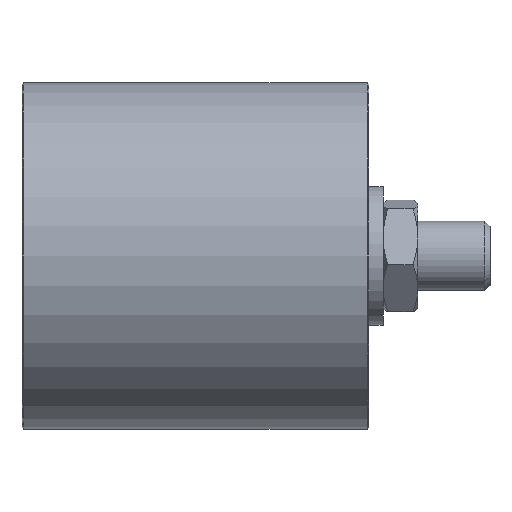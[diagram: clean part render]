
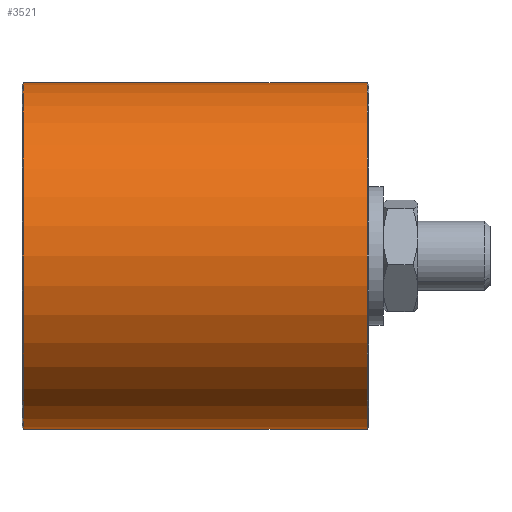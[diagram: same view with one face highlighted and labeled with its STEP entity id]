
A CAD part, front view. The second image highlights one B-rep face of the part: STEP entity #3521.
In plain terms, the highlighted cylindrical face has radius 30 mm (diameter 60 mm), a partial arc.
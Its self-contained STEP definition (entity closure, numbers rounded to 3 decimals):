
#24 = VERTEX_POINT ( 'NONE', #2081 ) ;
#61 = VERTEX_POINT ( 'NONE', #2099 ) ;
#88 = ORIENTED_EDGE ( 'NONE', *, *, #3079, .T. ) ;
#115 = CARTESIAN_POINT ( 'NONE',  ( 0., 29.75, 0. ) ) ;
#181 = DIRECTION ( 'NONE',  ( 0., -1., 0. ) ) ;
#216 = CARTESIAN_POINT ( 'NONE',  ( 0., 30., -30. ) ) ;
#223 = VERTEX_POINT ( 'NONE', #960 ) ;
#227 = ORIENTED_EDGE ( 'NONE', *, *, #3271, .T. ) ;
#448 = DIRECTION ( 'NONE',  ( 0., 0., 1. ) ) ;
#568 = DIRECTION ( 'NONE',  ( 0., -1., 0. ) ) ;
#609 = DIRECTION ( 'NONE',  ( 0., 0., -1. ) ) ;
#616 = ORIENTED_EDGE ( 'NONE', *, *, #3128, .T. ) ;
#687 = VERTEX_POINT ( 'NONE', #1725 ) ;
#811 = ORIENTED_EDGE ( 'NONE', *, *, #3719, .F. ) ;
#960 = CARTESIAN_POINT ( 'NONE',  ( 0., 29.75, -30. ) ) ;
#1365 = DIRECTION ( 'NONE',  ( 0., 0., 1. ) ) ;
#1378 = DIRECTION ( 'NONE',  ( 0., -1., 0. ) ) ;
#1647 = AXIS2_PLACEMENT_3D ( 'NONE', #115, #3850, #448 ) ;
#1725 = CARTESIAN_POINT ( 'NONE',  ( 0., -29.75, -30. ) ) ;
#1912 = LINE ( 'NONE', #2696, #3666 ) ;
#2081 = CARTESIAN_POINT ( 'NONE',  ( 0., 29.75, 30. ) ) ;
#2099 = CARTESIAN_POINT ( 'NONE',  ( 0., -29.75, 30. ) ) ;
#2292 = EDGE_LOOP ( 'NONE', ( #227, #616, #88, #811 ) ) ;
#2338 = LINE ( 'NONE', #216, #2552 ) ;
#2552 = VECTOR ( 'NONE', #181, 1000. ) ;
#2652 = CYLINDRICAL_SURFACE ( 'NONE', #3970, 30. ) ;
#2696 = CARTESIAN_POINT ( 'NONE',  ( 0., 30., 30. ) ) ;
#3079 = EDGE_CURVE ( 'NONE', #61, #687, #3819, .T. ) ;
#3128 = EDGE_CURVE ( 'NONE', #24, #61, #1912, .T. ) ;
#3271 = EDGE_CURVE ( 'NONE', #223, #24, #3558, .T. ) ;
#3317 = AXIS2_PLACEMENT_3D ( 'NONE', #3384, #3413, #1365 ) ;
#3384 = CARTESIAN_POINT ( 'NONE',  ( 0., -29.75, 0. ) ) ;
#3413 = DIRECTION ( 'NONE',  ( 0., 1., 0. ) ) ;
#3521 = ADVANCED_FACE ( 'NONE', ( #4033 ), #2652, .T. ) ;
#3558 = CIRCLE ( 'NONE', #1647, 30. ) ;
#3666 = VECTOR ( 'NONE', #1378, 1000. ) ;
#3719 = EDGE_CURVE ( 'NONE', #223, #687, #2338, .T. ) ;
#3819 = CIRCLE ( 'NONE', #3317, 30. ) ;
#3850 = DIRECTION ( 'NONE',  ( 0., -1., 0. ) ) ;
#3941 = CARTESIAN_POINT ( 'NONE',  ( 0., 30., 0. ) ) ;
#3970 = AXIS2_PLACEMENT_3D ( 'NONE', #3941, #568, #609 ) ;
#4033 = FACE_OUTER_BOUND ( 'NONE', #2292, .T. ) ;
